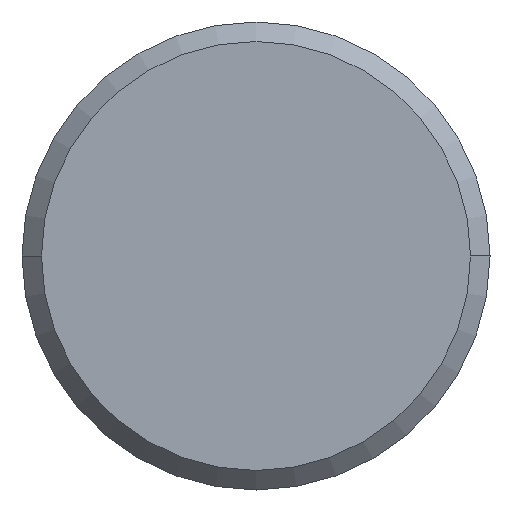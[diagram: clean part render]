
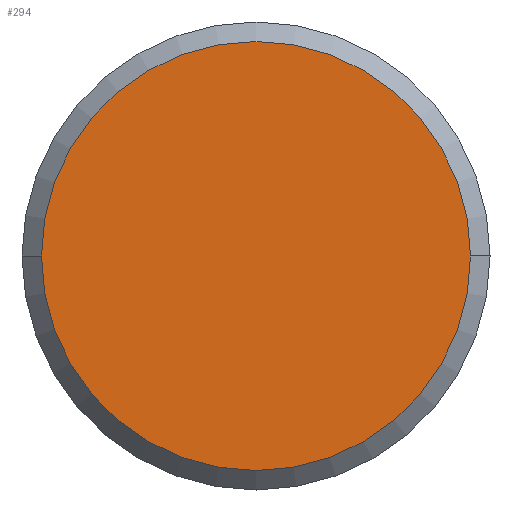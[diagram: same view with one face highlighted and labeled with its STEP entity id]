
A CAD part, left-side view. The second image highlights one B-rep face of the part: STEP entity #294.
In plain terms, the highlighted planar face has unit normal (-1, 0, 0).
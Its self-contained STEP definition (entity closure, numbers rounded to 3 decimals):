
#18 = FACE_OUTER_BOUND ( 'NONE', #122, .T. ) ;
#20 = VERTEX_POINT ( 'NONE', #83 ) ;
#36 = CIRCLE ( 'NONE', #255, 5.5 ) ;
#43 = PLANE ( 'NONE',  #273 ) ;
#45 = DIRECTION ( 'NONE',  ( 1., 0., 0. ) ) ;
#66 = CARTESIAN_POINT ( 'NONE',  ( -52., 5.5, 0. ) ) ;
#83 = CARTESIAN_POINT ( 'NONE',  ( -52., -5.5, 0. ) ) ;
#85 = CARTESIAN_POINT ( 'NONE',  ( -52., 0., 0. ) ) ;
#122 = EDGE_LOOP ( 'NONE', ( #191, #311 ) ) ;
#128 = CIRCLE ( 'NONE', #147, 5.5 ) ;
#131 = VERTEX_POINT ( 'NONE', #66 ) ;
#147 = AXIS2_PLACEMENT_3D ( 'NONE', #85, #277, #282 ) ;
#191 = ORIENTED_EDGE ( 'NONE', *, *, #233, .F. ) ;
#207 = CARTESIAN_POINT ( 'NONE',  ( -52., 0., 0. ) ) ;
#230 = CARTESIAN_POINT ( 'NONE',  ( -52., 0., 0. ) ) ;
#233 = EDGE_CURVE ( 'NONE', #131, #20, #128, .T. ) ;
#234 = DIRECTION ( 'NONE',  ( 0., 1., 0. ) ) ;
#255 = AXIS2_PLACEMENT_3D ( 'NONE', #207, #45, #234 ) ;
#273 = AXIS2_PLACEMENT_3D ( 'NONE', #230, #312, #291 ) ;
#277 = DIRECTION ( 'NONE',  ( 1., 0., 0. ) ) ;
#282 = DIRECTION ( 'NONE',  ( 0., 1., 0. ) ) ;
#291 = DIRECTION ( 'NONE',  ( 0., -1., 0. ) ) ;
#294 = ADVANCED_FACE ( 'NONE', ( #18 ), #43, .T. ) ;
#308 = EDGE_CURVE ( 'NONE', #20, #131, #36, .T. ) ;
#311 = ORIENTED_EDGE ( 'NONE', *, *, #308, .F. ) ;
#312 = DIRECTION ( 'NONE',  ( -1., 0., 0. ) ) ;
